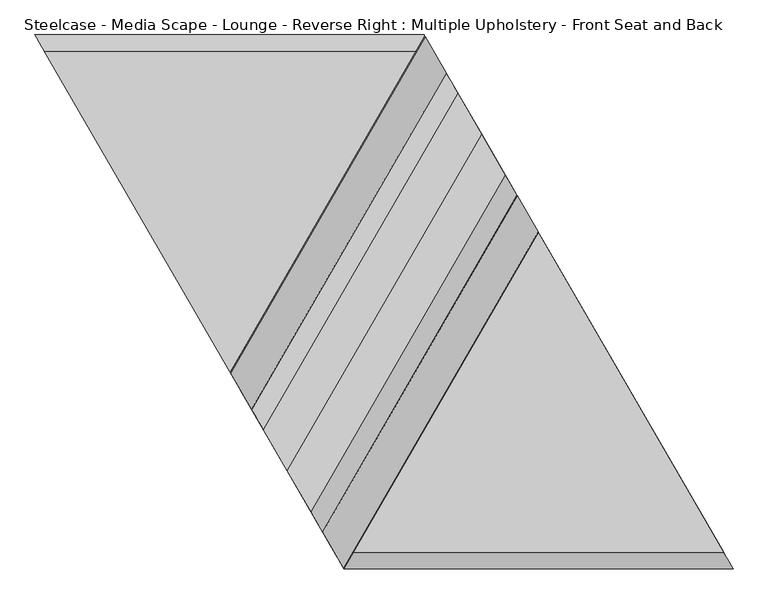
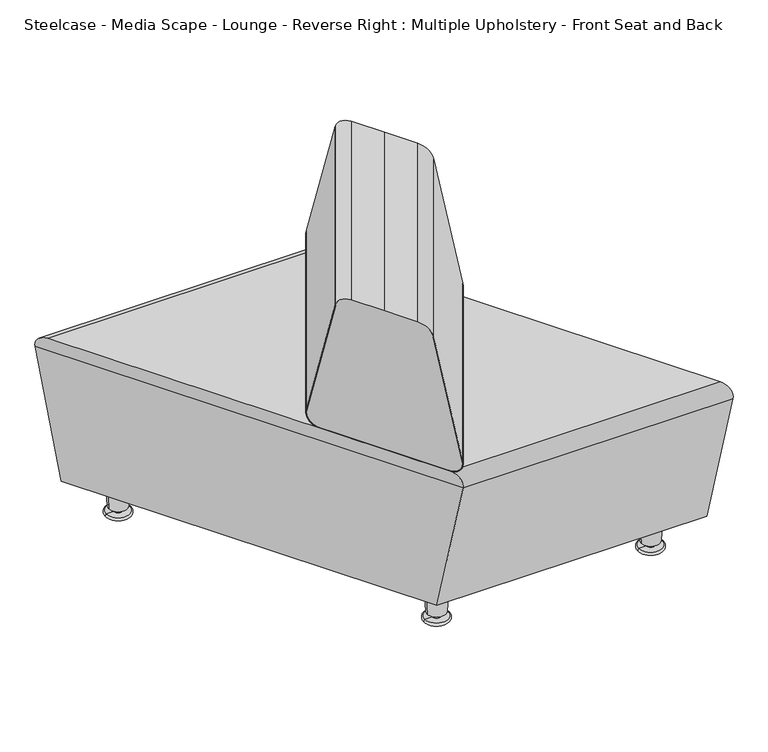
"""IFC4 building model written with IfcOpenShell, lengths in millimetres: furniture geometry, Steelcase - Media Scape - Lounge - Reverse Right : Multiple Upholstery - Front Seat and Back."""

from ifc_helpers import new_model, si_unit, point, frame, origin, place, context, project, spatial, polyline, circle_curve, ellipse_curve, trimmed, source, transform, mapped, element, save
from ifc_brep_helpers import plane_surface, cylinder_surface, revolved_surface, advanced_brep


def steelcase_media_scape_lounge_reverse_right_multiple_c0631099(model_context):
    return source(origin(), model_context, "Body", "AdvancedBrep", [
        advanced_brep(
        [(-1074.8446298, 808.4616148, 404.6983065), (-1089.3299605, 833.5030919, 375.0457281), (-607.3981608, 0.3647667, 375.0457281), (-621.8834915, 25.4062438, 404.6983065), (-482.1428002, 833.5030919, 375.0457281), (-467.6574696, 808.4616148, 404.6983065), (-14.6963313, 25.4062438, 404.6983065), (-0.2110006, 0.3647667, 375.0457281)],
        [
            (0, 1, ellipse_curve(frame((-1074.8446298, 808.4616148, 379.2983065), z_axis=(-0.8656115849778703, -0.5007160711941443, 0.0), x_axis=(-0.5007160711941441, 0.8656115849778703, 0.0)), 29.343415, 25.4)),
            (1, 2),
            (2, 3, ellipse_curve(frame((-621.8834915, 25.4062438, 379.2983065), z_axis=(-0.8656115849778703, -0.5007160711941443, 0.0), x_axis=(-0.5007160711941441, 0.8656115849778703, 0.0)), 29.343415, 25.4)),
            (3, 0),
            (4, 5, ellipse_curve(frame((-467.6574696, 808.4616148, 379.2983065), z_axis=(0.8656115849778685, 0.5007160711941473, 0.0), x_axis=(-0.5007160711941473, 0.8656115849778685, 0.0)), 29.343415, 25.4)),
            (5, 6),
            (6, 7, ellipse_curve(frame((-14.6963313, 25.4062438, 379.2983065), z_axis=(0.8656115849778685, 0.5007160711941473, 0.0), x_axis=(-0.5007160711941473, 0.8656115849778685, 0.0)), 29.343415, 25.4)),
            (7, 4),
            (0, 5),
            (4, 1),
            (7, 2),
            (6, 3),
        ],
        [
            plane_surface(frame((-281.4622448, -563.0960868, 914.4), z_axis=(-0.8656115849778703, -0.5007160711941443, 0.0), x_axis=(0.0, 0.0, -1.0))),
            plane_surface(frame((-511.7600957, 884.7039132, 914.4), z_axis=(0.8656115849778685, 0.5007160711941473, 0.0), x_axis=(0.0, 0.0, -1.0))),
            cylinder_surface(frame((0.0, 808.4616148, 379.2983065), z_axis=(-1.0, 0.0, 0.0), x_axis=(0.0, 1.0, 0.0)), 25.4),
            plane_surface(frame((-1219.2, 833.5030919, 375.0457281), z_axis=(0.0, 0.0, -1.0), x_axis=(1.0, 0.0, 0.0))),
            cylinder_surface(frame((0.0, 25.4062438, 379.2983065), z_axis=(-1.0, 0.0, 0.0), x_axis=(0.0, -1.0, 0.0)), 25.4),
            plane_surface(frame((-1219.2, 25.4062438, 404.6983065), z_axis=(0.0, 0.0, 1.0), x_axis=(1.0, 0.0, 0.0))),
        ],
        [
            (0, [[1, 2, 3, 4]]),
            (1, [[5, 6, 7, 8]]),
            (2, [[9, -5, 10, -1]]),
            (3, [[-10, -8, 11, -2]]),
            (4, [[-11, -7, 12, -3]]),
            (5, [[-9, -4, -12, -6]]),
        ],
    ),
        advanced_brep(
        [(-784.0823692, 305.807125, 437.0036802), (-480.7785795, 831.1446989, 437.0036802), (-465.4772182, 804.6925109, 404.4423976), (-768.7810079, 279.3549371, 404.4423976), (-392.5844661, 678.6793583, 404.4423976), (-695.8882558, 153.3417845, 404.4423976), (-319.5651722, 552.447447, 404.4423976), (-622.8689619, 27.1098731, 404.4423976), (-304.2638109, 525.9952591, 437.0036802), (-607.5676006, 0.6576852, 437.0036802), (-337.0631805, 582.6970826, 709.4657677), (-640.3669702, 57.3595087, 709.4657677), (-337.6629318, 583.7339011, 709.4657677), (-640.9667215, 58.3963272, 709.4657677), (-304.83862, 526.9889588, 436.796487), (-608.1424097, 1.6513849, 436.796487), (-319.5651722, 552.447447, 405.4583976), (-622.8689619, 27.1098731, 405.4583976), (-392.5844661, 678.6793583, 405.4583976), (-695.8882558, 153.3417845, 405.4583976), (-465.4772182, 804.6925109, 405.4583976), (-768.7810079, 279.3549371, 405.4583976), (-480.2037704, 830.1509992, 436.796487), (-783.5075601, 304.8134253, 436.796487), (-447.3545163, 773.362938, 709.6729609), (-750.658306, 248.0253642, 709.6729609), (-447.9542677, 774.3997566, 709.6729609), (-751.2580574, 249.0621827, 709.6729609)],
        [
            (0, 1),
            (1, 2, ellipse_curve(frame((-465.4772182, 804.6925109, 431.4882164), z_axis=(-0.8656115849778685, -0.5007160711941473, 0.0), x_axis=(0.5007160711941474, -0.8656115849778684, 0.0)), 31.2149272, 27.0458188)),
            (2, 3),
            (3, 0, ellipse_curve(frame((-768.7810079, 279.3549371, 431.4882164), z_axis=(0.8656115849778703, 0.5007160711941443, 0.0), x_axis=(0.5007160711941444, -0.8656115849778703, 0.0)), 31.2149272, 27.0458188)),
            (2, 4),
            (4, 5),
            (5, 3),
            (4, 6),
            (6, 7),
            (7, 5),
            (6, 8, ellipse_curve(frame((-319.5651722, 552.447447, 431.4882164), z_axis=(-0.8656115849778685, -0.5007160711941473, 0.0), x_axis=(0.5007160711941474, -0.8656115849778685, 0.0)), 31.2149272, 27.0458188)),
            (8, 9),
            (9, 7, ellipse_curve(frame((-622.8689619, 27.1098731, 431.4882164), z_axis=(0.8656115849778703, 0.5007160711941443, 0.0), x_axis=(0.5007160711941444, -0.8656115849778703, 0.0)), 31.2149272, 27.0458188)),
            (8, 10),
            (10, 11),
            (11, 9),
            (10, 12),
            (12, 13),
            (13, 11),
            (12, 14),
            (14, 15),
            (15, 13),
            (14, 16, ellipse_curve(frame((-319.5651722, 552.447447, 431.4882164), z_axis=(0.8656115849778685, 0.5007160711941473, 0.0), x_axis=(-0.5007160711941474, 0.8656115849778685, 0.0)), 30.042311, 26.0298188)),
            (16, 17),
            (17, 15, ellipse_curve(frame((-622.8689619, 27.1098731, 431.4882164), z_axis=(-0.8656115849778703, -0.5007160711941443, 0.0), x_axis=(-0.5007160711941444, 0.8656115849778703, 0.0)), 30.042311, 26.0298188)),
            (16, 18),
            (18, 19),
            (19, 17),
            (18, 20),
            (20, 21),
            (21, 19),
            (20, 22, ellipse_curve(frame((-465.4772182, 804.6925109, 431.4882164), z_axis=(0.8656115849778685, 0.5007160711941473, 0.0), x_axis=(-0.5007160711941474, 0.8656115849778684, 0.0)), 30.042311, 26.0298188)),
            (22, 23),
            (23, 21, ellipse_curve(frame((-768.7810079, 279.3549371, 431.4882164), z_axis=(-0.8656115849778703, -0.5007160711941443, 0.0), x_axis=(-0.5007160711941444, 0.8656115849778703, 0.0)), 30.042311, 26.0298188)),
            (22, 24),
            (24, 25),
            (25, 23),
            (24, 26),
            (26, 27),
            (27, 25),
            (0, 27),
            (26, 1),
        ],
        [
            cylinder_surface(frame((-457.0526696, 819.2842571, 431.4882164), z_axis=(-0.49999999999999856, -0.8660254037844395, 0.0), x_axis=(-0.8660254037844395, 0.49999999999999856, 0.0)), 27.0458188),
            plane_surface(frame((-849.346782, 139.8109228, 404.4423976), z_axis=(0.0, 0.0, -1.0), x_axis=(0.49999999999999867, 0.8660254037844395, 0.0))),
            plane_surface(frame((-740.1119223, 76.7441471, 404.4423976), z_axis=(0.0, 0.0, -1.0), x_axis=(0.49999999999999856, 0.8660254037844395, 0.0))),
            cylinder_surface(frame((-238.3933185, 693.0412218, 431.4882164), z_axis=(-0.4999999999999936, -0.8660254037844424, 0.0), x_axis=(0.8660254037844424, -0.4999999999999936, 0.0)), 27.0458188),
            plane_surface(frame((-607.7572765, 0.3291568, 437.0036802), z_axis=(0.8478262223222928, -0.4894926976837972, 0.20393036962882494), x_axis=(0.4999999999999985, 0.8660254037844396, 0.0))),
            plane_surface(frame((-656.9094135, 28.7071563, 709.4657677), z_axis=(0.0, 0.0, 1.0), x_axis=(0.4999999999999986, 0.8660254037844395, 0.0))),
            plane_surface(frame((-657.8081826, 29.2260609, 709.4657677), z_axis=(-0.8478262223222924, 0.4894926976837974, -0.20393036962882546), x_axis=(0.4999999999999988, 0.8660254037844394, 0.0))),
            revolved_surface(polyline([(-289.5228714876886, 552.422600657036, 431.4882164), (-607.8262939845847, 1.1049006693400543, 431.4882164)]), (-238.3933185, 693.0412218, 431.4882164), (0.4999999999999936, 0.8660254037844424, 0.0)),
            plane_surface(frame((-630.6874309, 13.5678876, 405.4583976), z_axis=(0.0, 0.0, 1.0), x_axis=(0.4999999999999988, 0.8660254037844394, 0.0))),
            plane_surface(frame((-740.1119223, 76.7441471, 405.4583976), z_axis=(0.0, 0.0, 1.0), x_axis=(0.49999999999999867, 0.8660254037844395, 0.0))),
            revolved_surface(polyline([(-480.51988613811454, 830.6974833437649, 431.4882164), (-798.8233085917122, 279.37978343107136, 431.4882164)]), (-457.0526696, 819.2842571, 431.4882164), (0.49999999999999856, 0.8660254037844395, 0.0)),
            plane_surface(frame((-871.415545, 152.5523291, 436.796487), z_axis=(0.8478262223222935, -0.48949269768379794, -0.20393036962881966), x_axis=(0.49999999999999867, 0.8660254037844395, 0.0))),
            plane_surface(frame((-822.1886527, 124.1311695, 709.6729609), z_axis=(0.0, 0.0, 1.0), x_axis=(0.4999999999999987, 0.8660254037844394, 0.0))),
            plane_surface(frame((-823.0874218, 124.6500741, 709.6729609), z_axis=(-0.8478262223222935, 0.489492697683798, 0.20393036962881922), x_axis=(0.4999999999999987, 0.8660254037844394, 0.0))),
            plane_surface(frame((-281.4622448, -563.0960868, 914.4), z_axis=(-0.8656115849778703, -0.5007160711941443, 0.0), x_axis=(0.0, 0.0, -1.0))),
            plane_surface(frame((-511.7600957, 884.7039132, 914.4), z_axis=(0.8656115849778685, 0.5007160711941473, 0.0), x_axis=(0.0, 0.0, -1.0))),
        ],
        [
            (0, [[1, 2, 3, 4]]),
            (1, [[-3, 5, 6, 7]]),
            (2, [[-6, 8, 9, 10]]),
            (3, [[-9, 11, 12, 13]]),
            (4, [[-12, 14, 15, 16]]),
            (5, [[-15, 17, 18, 19]]),
            (6, [[-18, 20, 21, 22]]),
            (7, [[-21, 23, 24, 25]]),
            (8, [[-24, 26, 27, 28]]),
            (9, [[-27, 29, 30, 31]]),
            (10, [[-30, 32, 33, 34]]),
            (11, [[-33, 35, 36, 37]]),
            (12, [[-36, 38, 39, 40]]),
            (13, [[-1, 41, -39, 42]]),
            (14, [[-4, -7, -10, -13, -16, -19, -22, -25, -28, -31, -34, -37, -40, -41]]),
            (15, [[-2, -42, -38, -35, -32, -29, -26, -23, -20, -17, -14, -11, -8, -5]]),
        ],
    ),
        advanced_brep(
        [(-733.1515703, 217.760641, 734.4994984), (-429.8477806, 743.0982149, 734.4994984), (-447.8105654, 774.1513316, 709.2242876), (-751.1143551, 248.8137578, 709.2242876), (-480.6348772, 830.896274, 436.5550069), (-783.9386669, 305.5587001, 436.5550069), (-465.4772182, 804.6925109, 404.2995226), (-768.7810079, 279.3549371, 404.2995226), (-392.5844661, 678.6793583, 404.2995226), (-695.8882558, 153.3417845, 404.2995226), (-319.5651722, 552.447447, 404.2995226), (-622.8689619, 27.1098731, 404.2995226), (-304.4075131, 526.243684, 436.5550069), (-607.7113028, 0.9061101, 436.5550069), (-337.231825, 582.9886263, 709.2242876), (-640.5356147, 57.6510524, 709.2242876), (-355.1946098, 614.041743, 734.4994984), (-658.4983994, 88.7041692, 734.4994984), (-392.1305336, 677.8946237, 734.4994984), (-695.4343233, 152.5570499, 734.4994984)],
        [
            (0, 1),
            (1, 2, ellipse_curve(frame((-429.8477806, 743.0982149, 702.7494984), z_axis=(-0.8656115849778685, -0.5007160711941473, 0.0), x_axis=(0.5007160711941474, -0.8656115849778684, 0.0)), 36.6442572, 31.75)),
            (2, 3),
            (3, 0, ellipse_curve(frame((-733.1515703, 217.760641, 702.7494984), z_axis=(0.8656115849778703, 0.5007160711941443, 0.0), x_axis=(0.5007160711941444, -0.8656115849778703, 0.0)), 36.6442572, 31.75)),
            (2, 4),
            (4, 5),
            (5, 3),
            (4, 6, ellipse_curve(frame((-465.4772182, 804.6925109, 431.0913414), z_axis=(-0.8656115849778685, -0.5007160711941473, 0.0), x_axis=(0.5007160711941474, -0.8656115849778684, 0.0)), 30.9217732, 26.7918188)),
            (6, 7),
            (7, 5, ellipse_curve(frame((-768.7810079, 279.3549371, 431.0913414), z_axis=(0.8656115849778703, 0.5007160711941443, 0.0), x_axis=(0.5007160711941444, -0.8656115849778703, 0.0)), 30.9217732, 26.7918188)),
            (6, 8),
            (8, 9),
            (9, 7),
            (8, 10),
            (10, 11),
            (11, 9),
            (10, 12, ellipse_curve(frame((-319.5651722, 552.447447, 431.0913414), z_axis=(-0.8656115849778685, -0.5007160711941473, 0.0), x_axis=(0.5007160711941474, -0.8656115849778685, 0.0)), 30.9217732, 26.7918188)),
            (12, 13),
            (13, 11, ellipse_curve(frame((-622.8689619, 27.1098731, 431.0913414), z_axis=(0.8656115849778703, 0.5007160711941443, 0.0), x_axis=(0.5007160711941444, -0.8656115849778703, 0.0)), 30.9217732, 26.7918188)),
            (12, 14),
            (14, 15),
            (15, 13),
            (14, 16, ellipse_curve(frame((-355.1946098, 614.041743, 702.7494984), z_axis=(-0.8656115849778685, -0.5007160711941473, 0.0), x_axis=(0.5007160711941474, -0.8656115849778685, 0.0)), 36.6442572, 31.75)),
            (16, 17),
            (17, 15, ellipse_curve(frame((-658.4983994, 88.7041692, 702.7494984), z_axis=(0.8656115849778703, 0.5007160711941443, 0.0), x_axis=(0.5007160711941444, -0.8656115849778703, 0.0)), 36.6442572, 31.75)),
            (16, 18),
            (18, 19),
            (19, 17),
            (0, 19),
            (18, 1),
        ],
        [
            cylinder_surface(frame((-403.3023082, 789.0763219, 702.7494984), z_axis=(-0.49999999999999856, -0.8660254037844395, 0.0), x_axis=(-0.8660254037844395, 0.49999999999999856, 0.0)), 31.75),
            plane_surface(frame((-823.2526585, 123.8665511, 709.2242876), z_axis=(-0.8478262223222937, 0.489492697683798, 0.20393036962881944), x_axis=(0.49999999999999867, 0.8660254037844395, 0.0))),
            cylinder_surface(frame((-456.6954989, 819.902895, 431.0913414), z_axis=(-0.49999999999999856, -0.8660254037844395, 0.0), x_axis=(-0.8660254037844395, 0.49999999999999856, 0.0)), 26.7918188),
            plane_surface(frame((-849.7273666, 139.151731, 404.2995226), z_axis=(0.0, 0.0, -1.0), x_axis=(0.4999999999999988, 0.8660254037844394, 0.0))),
            plane_surface(frame((-740.4925069, 76.0849553, 404.2995226), z_axis=(0.0, 0.0, -1.0), x_axis=(0.49999999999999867, 0.8660254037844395, 0.0))),
            cylinder_surface(frame((-238.0361477, 693.6598597, 431.0913414), z_axis=(-0.4999999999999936, -0.8660254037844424, 0.0), x_axis=(0.8660254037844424, -0.4999999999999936, 0.0)), 26.7918188),
            plane_surface(frame((-608.353209, -0.2057039, 436.5550069), z_axis=(0.8478262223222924, -0.4894926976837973, 0.20393036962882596), x_axis=(0.49999999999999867, 0.8660254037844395, 0.0))),
            cylinder_surface(frame((-291.4293384, 724.4864327, 702.7494984), z_axis=(-0.4999999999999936, -0.8660254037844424, 0.0), x_axis=(0.8660254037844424, -0.4999999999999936, 0.0)), 31.75),
            plane_surface(frame((-684.4612062, 43.7352688, 734.4994984), z_axis=(0.0, 0.0, 1.0), x_axis=(0.4999999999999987, 0.8660254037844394, 0.0))),
            plane_surface(frame((-739.8122575, 75.6922131, 734.4994984), z_axis=(0.0, 0.0, 1.0), x_axis=(0.4999999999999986, 0.8660254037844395, 0.0))),
            plane_surface(frame((-281.4622448, -563.0960868, 914.4), z_axis=(-0.8656115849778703, -0.5007160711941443, 0.0), x_axis=(0.0, 0.0, -1.0))),
            plane_surface(frame((-511.7600957, 884.7039132, 914.4), z_axis=(0.8656115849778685, 0.5007160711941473, 0.0), x_axis=(0.0, 0.0, -1.0))),
        ],
        [
            (0, [[1, 2, 3, 4]]),
            (1, [[-3, 5, 6, 7]]),
            (2, [[-6, 8, 9, 10]]),
            (3, [[-9, 11, 12, 13]]),
            (4, [[-12, 14, 15, 16]]),
            (5, [[-15, 17, 18, 19]]),
            (6, [[-18, 20, 21, 22]]),
            (7, [[-21, 23, 24, 25]]),
            (8, [[-24, 26, 27, 28]]),
            (9, [[-1, 29, -27, 30]]),
            (10, [[-4, -7, -10, -13, -16, -19, -22, -25, -28, -29]]),
            (11, [[-2, -30, -26, -23, -20, -17, -14, -11, -8, -5]]),
        ],
    ),
        advanced_brep(
        [(-1059.8466558, 782.5339068, 74.676), (-452.6594956, 782.5339068, 74.676), (-29.7158278, 51.3711588, 74.676), (-636.9029881, 51.3711588, 74.676), (-0.234325, 0.4050887, 374.7917281), (-607.4214852, 0.4050887, 374.7917281), (-14.7196556, 25.4465658, 404.4443065), (-621.9068159, 25.4465658, 404.4443065), (-467.6556677, 808.4584998, 404.4443065), (-1074.842828, 808.4584998, 404.4443065), (-482.1409984, 833.4999769, 374.7917281), (-1089.3281586, 833.4999769, 374.7917281)],
        [
            (0, 1),
            (1, 2),
            (2, 3),
            (3, 0),
            (2, 4),
            (4, 5),
            (5, 3),
            (4, 6, ellipse_curve(frame((-14.7196556, 25.4465658, 379.0443065), z_axis=(-0.8656115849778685, -0.5007160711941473, 0.0), x_axis=(-0.5007160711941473, 0.8656115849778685, 0.0)), 29.343415, 25.4)),
            (6, 7),
            (7, 5, ellipse_curve(frame((-621.9068159, 25.4465658, 379.0443065), z_axis=(0.8656115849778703, 0.5007160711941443, 0.0), x_axis=(-0.5007160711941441, 0.8656115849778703, 0.0)), 29.343415, 25.4)),
            (6, 8),
            (8, 9),
            (9, 7),
            (8, 10, ellipse_curve(frame((-467.6556677, 808.4584998, 379.0443065), z_axis=(-0.8656115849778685, -0.5007160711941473, 0.0), x_axis=(-0.5007160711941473, 0.8656115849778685, 0.0)), 29.343415, 25.4)),
            (10, 11),
            (11, 9, ellipse_curve(frame((-1074.842828, 808.4584998, 379.0443065), z_axis=(0.8656115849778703, 0.5007160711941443, 0.0), x_axis=(-0.5007160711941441, 0.8656115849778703, 0.0)), 29.343415, 25.4)),
            (0, 11),
            (10, 1),
        ],
        [
            plane_surface(frame((-1094.6230669, 782.5339068, 74.676), z_axis=(0.0, 0.0, -1.0), x_axis=(1.0, 0.0, 0.0))),
            plane_surface(frame((-1094.6230669, 51.3711588, 74.676), z_axis=(0.0, -0.9858849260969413, -0.16742434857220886), x_axis=(1.0, 0.0, 0.0))),
            cylinder_surface(frame((0.0, 25.4465658, 379.0443065), z_axis=(-1.0, 0.0, 0.0), x_axis=(0.0, -1.0, 0.0)), 25.4),
            plane_surface(frame((-1094.6230669, 25.4465658, 404.4443065), z_axis=(0.0, 0.0, 1.0), x_axis=(1.0, 0.0, 0.0))),
            cylinder_surface(frame((0.0, 808.4584998, 379.0443065), z_axis=(-1.0, 0.0, 0.0), x_axis=(0.0, 1.0, 0.0)), 25.4),
            plane_surface(frame((-1094.6230669, 833.4999769, 374.7917281), z_axis=(0.0, 0.9858849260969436, -0.16742434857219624), x_axis=(1.0, 0.0, 0.0))),
            plane_surface(frame((-281.4622448, -563.0960868, 914.4), z_axis=(-0.8656115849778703, -0.5007160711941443, 0.0), x_axis=(0.0, 0.0, -1.0))),
            plane_surface(frame((-511.7600957, 884.7039132, 914.4), z_axis=(0.8656115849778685, 0.5007160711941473, 0.0), x_axis=(0.0, 0.0, -1.0))),
        ],
        [
            (0, [[1, 2, 3, 4]]),
            (1, [[-3, 5, 6, 7]]),
            (2, [[-6, 8, 9, 10]]),
            (3, [[-9, 11, 12, 13]]),
            (4, [[-12, 14, 15, 16]]),
            (5, [[-1, 17, -15, 18]]),
            (6, [[-4, -7, -10, -13, -16, -17]]),
            (7, [[-2, -18, -14, -11, -8, -5]]),
        ],
    ),
        advanced_brep(
        [(-943.0462782, 727.1583042, 17.057519), (-984.9565107, 727.1583042, 17.057519), (-987.7883146, 727.1583042, 74.1561731), (-940.2144743, 727.1583042, 74.1561731), (-954.4763944, 727.1583042, 17.057519), (-973.5263944, 727.1583042, 17.057519), (-954.4763944, 727.1583042, 6.3788302), (-973.5263944, 727.1583042, 6.3788302), (-937.9477522, 727.1583042, 6.3788302), (-990.0550367, 727.1583042, 6.3788302), (-937.9477522, 727.1583042, 0.0), (-990.0550367, 727.1583042, 0.0), (-964.0013944, 727.1583042, 0.0), (-964.0013944, 727.1583042, 74.1561731)],
        [
            (0, 1, circle_curve(frame((-964.0013944, 727.1583042, 17.057519), z_axis=(0.0, 0.0, 1.0), x_axis=(-1.0, 0.0, 0.0)), 20.9551163)),
            (1, 2),
            (2, 3, circle_curve(frame((-964.0013944, 727.1583042, 74.1561731), z_axis=(0.0, 0.0, -1.0), x_axis=(-1.0, 0.0, 0.0)), 23.7869202)),
            (3, 0),
            (1, 0, circle_curve(frame((-964.0013944, 727.1583042, 17.057519), z_axis=(0.0, 0.0, 1.0), x_axis=(-1.0, 0.0, 0.0)), 20.9551163)),
            (3, 2, circle_curve(frame((-964.0013944, 727.1583042, 74.1561731), z_axis=(0.0, 0.0, -1.0), x_axis=(-1.0, 0.0, 0.0)), 23.7869202)),
            (0, 4),
            (4, 5, circle_curve(frame((-964.0013944, 727.1583042, 17.057519), z_axis=(0.0, 0.0, 1.0), x_axis=(-1.0, 0.0, 0.0)), 9.525)),
            (5, 1),
            (5, 4, circle_curve(frame((-964.0013944, 727.1583042, 17.057519), z_axis=(0.0, 0.0, 1.0), x_axis=(-1.0, 0.0, 0.0)), 9.525)),
            (4, 6),
            (6, 7, circle_curve(frame((-964.0013944, 727.1583042, 6.3788302), z_axis=(0.0, 0.0, 1.0), x_axis=(-1.0, 0.0, 0.0)), 9.525)),
            (7, 5),
            (7, 6, circle_curve(frame((-964.0013944, 727.1583042, 6.3788302), z_axis=(0.0, 0.0, 1.0), x_axis=(-1.0, 0.0, 0.0)), 9.525)),
            (6, 8),
            (8, 9, circle_curve(frame((-964.0013944, 727.1583042, 6.3788302), z_axis=(0.0, 0.0, 1.0), x_axis=(-1.0, 0.0, 0.0)), 26.0536423)),
            (9, 7),
            (9, 8, circle_curve(frame((-964.0013944, 727.1583042, 6.3788302), z_axis=(0.0, 0.0, 1.0), x_axis=(-1.0, 0.0, 0.0)), 26.0536423)),
            (8, 10, circle_curve(frame((-937.9477522, 727.1583042, 3.1894151), z_axis=(0.0, 1.0, 0.0), x_axis=(1.0, 0.0, 0.0)), 3.1894151)),
            (10, 11, circle_curve(frame((-964.0013944, 727.1583042, 0.0), z_axis=(0.0, 0.0, 1.0), x_axis=(-1.0, 0.0, 0.0)), 26.0536423)),
            (11, 9, circle_curve(frame((-990.0550367, 727.1583042, 3.1894151), z_axis=(0.0, 1.0, 0.0), x_axis=(-1.0, 0.0, 0.0)), 3.1894151)),
            (11, 10, circle_curve(frame((-964.0013944, 727.1583042, 0.0), z_axis=(0.0, 0.0, 1.0), x_axis=(-1.0, 0.0, 0.0)), 26.0536423)),
            (10, 12),
            (12, 11),
            (2, 13),
            (13, 3),
        ],
        [
            revolved_surface(polyline([(-987.7883146, 727.1583042, 74.1561731), (-984.9565107, 727.1583042, 17.057519)]), (-964.0013944, 727.1583042, 61.4561731), (0.0, 0.0, -1.0)),
            plane_surface(frame((-964.0013944, 727.1583042, 17.057519), z_axis=(0.0, 0.0, -1.0), x_axis=(-1.0, 0.0, 0.0))),
            cylinder_surface(frame((-964.0013944, 727.1583042, 61.4561731), z_axis=(0.0, 0.0, -1.0), x_axis=(-1.0, 0.0, 0.0)), 9.525),
            plane_surface(frame((-964.0013944, 727.1583042, 6.3788302), z_axis=(0.0, 0.0, 1.0), x_axis=(-1.0, 0.0, 0.0))),
            revolved_surface(trimmed(ellipse_curve(frame((-990.0550367, 727.1583042, 3.1894151), z_axis=(0.0, -1.0, 0.0), x_axis=(-1.0, 0.0, 0.0)), 3.1894151, 3.1894151), [point((-990.0550367, 727.1583042, 6.3788302))], [point((-990.0550367, 727.1583042, 0.0))], True, "CARTESIAN"), (-964.0013944, 727.1583042, 61.4561731), (0.0, 0.0, -1.0)),
            plane_surface(frame((-964.0013944, 727.1583042, 0.0), z_axis=(0.0, 0.0, -1.0), x_axis=(-1.0, 0.0, 0.0))),
            plane_surface(frame((-964.0013944, 727.1583042, 74.1561731), z_axis=(0.0, 0.0, 1.0), x_axis=(-1.0, 0.0, 0.0))),
        ],
        [
            (0, [[1, 2, 3, 4]]),
            (0, [[-2, 5, -4, 6]]),
            (1, [[-1, 7, 8, 9]]),
            (1, [[-5, -9, 10, -7]]),
            (2, [[-8, 11, 12, 13]]),
            (2, [[-10, -13, 14, -11]]),
            (3, [[-12, 15, 16, 17]]),
            (3, [[-14, -17, 18, -15]]),
            (4, [[-16, 19, 20, 21]]),
            (4, [[-18, -21, 22, -19]]),
            (5, [[-20, 23, 24]]),
            (5, [[-22, -24, -23]]),
            (6, [[-3, 25, 26]]),
            (6, [[-6, -26, -25]]),
        ],
    ),
        advanced_brep(
        [(-461.2460355, 727.1583042, 17.057519), (-503.1562681, 727.1583042, 17.057519), (-505.988072, 727.1583042, 74.1561731), (-458.4142317, 727.1583042, 74.1561731), (-472.6761518, 727.1583042, 17.057519), (-491.7261518, 727.1583042, 17.057519), (-472.6761518, 727.1583042, 6.3788302), (-491.7261518, 727.1583042, 6.3788302), (-456.1475095, 727.1583042, 6.3788302), (-508.2547941, 727.1583042, 6.3788302), (-456.1475095, 727.1583042, 0.0), (-508.2547941, 727.1583042, 0.0), (-482.2011518, 727.1583042, 0.0), (-482.2011518, 727.1583042, 74.1561731)],
        [
            (0, 1, circle_curve(frame((-482.2011518, 727.1583042, 17.057519), z_axis=(0.0, 0.0, 1.0), x_axis=(-1.0, 0.0, 0.0)), 20.9551163)),
            (1, 2),
            (2, 3, circle_curve(frame((-482.2011518, 727.1583042, 74.1561731), z_axis=(0.0, 0.0, -1.0), x_axis=(-1.0, 0.0, 0.0)), 23.7869202)),
            (3, 0),
            (1, 0, circle_curve(frame((-482.2011518, 727.1583042, 17.057519), z_axis=(0.0, 0.0, 1.0), x_axis=(-1.0, 0.0, 0.0)), 20.9551163)),
            (3, 2, circle_curve(frame((-482.2011518, 727.1583042, 74.1561731), z_axis=(0.0, 0.0, -1.0), x_axis=(-1.0, 0.0, 0.0)), 23.7869202)),
            (0, 4),
            (4, 5, circle_curve(frame((-482.2011518, 727.1583042, 17.057519), z_axis=(0.0, 0.0, 1.0), x_axis=(-1.0, 0.0, 0.0)), 9.525)),
            (5, 1),
            (5, 4, circle_curve(frame((-482.2011518, 727.1583042, 17.057519), z_axis=(0.0, 0.0, 1.0), x_axis=(-1.0, 0.0, 0.0)), 9.525)),
            (4, 6),
            (6, 7, circle_curve(frame((-482.2011518, 727.1583042, 6.3788302), z_axis=(0.0, 0.0, 1.0), x_axis=(-1.0, 0.0, 0.0)), 9.525)),
            (7, 5),
            (7, 6, circle_curve(frame((-482.2011518, 727.1583042, 6.3788302), z_axis=(0.0, 0.0, 1.0), x_axis=(-1.0, 0.0, 0.0)), 9.525)),
            (6, 8),
            (8, 9, circle_curve(frame((-482.2011518, 727.1583042, 6.3788302), z_axis=(0.0, 0.0, 1.0), x_axis=(-1.0, 0.0, 0.0)), 26.0536423)),
            (9, 7),
            (9, 8, circle_curve(frame((-482.2011518, 727.1583042, 6.3788302), z_axis=(0.0, 0.0, 1.0), x_axis=(-1.0, 0.0, 0.0)), 26.0536423)),
            (8, 10, circle_curve(frame((-456.1475095, 727.1583042, 3.1894151), z_axis=(0.0, 1.0, 0.0), x_axis=(1.0, 0.0, 0.0)), 3.1894151)),
            (10, 11, circle_curve(frame((-482.2011518, 727.1583042, 0.0), z_axis=(0.0, 0.0, 1.0), x_axis=(-1.0, 0.0, 0.0)), 26.0536423)),
            (11, 9, circle_curve(frame((-508.2547941, 727.1583042, 3.1894151), z_axis=(0.0, 1.0, 0.0), x_axis=(-1.0, 0.0, 0.0)), 3.1894151)),
            (11, 10, circle_curve(frame((-482.2011518, 727.1583042, 0.0), z_axis=(0.0, 0.0, 1.0), x_axis=(-1.0, 0.0, 0.0)), 26.0536423)),
            (10, 12),
            (12, 11),
            (2, 13),
            (13, 3),
        ],
        [
            revolved_surface(polyline([(-505.988072, 727.1583042, 74.1561731), (-503.1562681, 727.1583042, 17.057519)]), (-482.2011518, 727.1583042, 61.4561731), (0.0, 0.0, -1.0)),
            plane_surface(frame((-482.2011518, 727.1583042, 17.057519), z_axis=(0.0, 0.0, -1.0), x_axis=(-1.0, 0.0, 0.0))),
            cylinder_surface(frame((-482.2011518, 727.1583042, 61.4561731), z_axis=(0.0, 0.0, -1.0), x_axis=(-1.0, 0.0, 0.0)), 9.525),
            plane_surface(frame((-482.2011518, 727.1583042, 6.3788302), z_axis=(0.0, 0.0, 1.0), x_axis=(-1.0, 0.0, 0.0))),
            revolved_surface(trimmed(ellipse_curve(frame((-508.2547941, 727.1583042, 3.1894151), z_axis=(0.0, -1.0, 0.0), x_axis=(-1.0, 0.0, 0.0)), 3.1894151, 3.1894151), [point((-508.2547941, 727.1583042, 6.3788302))], [point((-508.2547941, 727.1583042, 0.0))], True, "CARTESIAN"), (-482.2011518, 727.1583042, 61.4561731), (0.0, 0.0, -1.0)),
            plane_surface(frame((-482.2011518, 727.1583042, 0.0), z_axis=(0.0, 0.0, -1.0), x_axis=(-1.0, 0.0, 0.0))),
            plane_surface(frame((-482.2011518, 727.1583042, 74.1561731), z_axis=(0.0, 0.0, 1.0), x_axis=(-1.0, 0.0, 0.0))),
        ],
        [
            (0, [[1, 2, 3, 4]]),
            (0, [[-2, 5, -4, 6]]),
            (1, [[-1, 7, 8, 9]]),
            (1, [[-5, -9, 10, -7]]),
            (2, [[-8, 11, 12, 13]]),
            (2, [[-10, -13, 14, -11]]),
            (3, [[-12, 15, 16, 17]]),
            (3, [[-14, -17, 18, -15]]),
            (4, [[-16, 19, 20, 21]]),
            (4, [[-18, -21, 22, -19]]),
            (5, [[-20, 23, 24]]),
            (5, [[-22, -24, -23]]),
            (6, [[-3, 25, 26]]),
            (6, [[-6, -26, -25]]),
        ],
    ),
        advanced_brep(
        [(-584.810005, 106.9669449, 17.057519), (-626.7202375, 106.9669449, 17.057519), (-629.5520414, 106.9669449, 74.1561731), (-581.9782011, 106.9669449, 74.1561731), (-596.2401212, 106.9669449, 17.057519), (-615.2901212, 106.9669449, 17.057519), (-596.2401212, 106.9669449, 6.3788302), (-615.2901212, 106.9669449, 6.3788302), (-579.711479, 106.9669449, 6.3788302), (-631.8187635, 106.9669449, 6.3788302), (-579.711479, 106.9669449, 0.0), (-631.8187635, 106.9669449, 0.0), (-605.7651212, 106.9669449, 0.0), (-605.7651212, 106.9669449, 74.1561731)],
        [
            (0, 1, circle_curve(frame((-605.7651212, 106.9669449, 17.057519), z_axis=(0.0, 0.0, 1.0), x_axis=(-1.0, 0.0, 0.0)), 20.9551163)),
            (1, 2),
            (2, 3, circle_curve(frame((-605.7651212, 106.9669449, 74.1561731), z_axis=(0.0, 0.0, -1.0), x_axis=(-1.0, 0.0, 0.0)), 23.7869202)),
            (3, 0),
            (1, 0, circle_curve(frame((-605.7651212, 106.9669449, 17.057519), z_axis=(0.0, 0.0, 1.0), x_axis=(-1.0, 0.0, 0.0)), 20.9551163)),
            (3, 2, circle_curve(frame((-605.7651212, 106.9669449, 74.1561731), z_axis=(0.0, 0.0, -1.0), x_axis=(-1.0, 0.0, 0.0)), 23.7869202)),
            (0, 4),
            (4, 5, circle_curve(frame((-605.7651212, 106.9669449, 17.057519), z_axis=(0.0, 0.0, 1.0), x_axis=(-1.0, 0.0, 0.0)), 9.525)),
            (5, 1),
            (5, 4, circle_curve(frame((-605.7651212, 106.9669449, 17.057519), z_axis=(0.0, 0.0, 1.0), x_axis=(-1.0, 0.0, 0.0)), 9.525)),
            (4, 6),
            (6, 7, circle_curve(frame((-605.7651212, 106.9669449, 6.3788302), z_axis=(0.0, 0.0, 1.0), x_axis=(-1.0, 0.0, 0.0)), 9.525)),
            (7, 5),
            (7, 6, circle_curve(frame((-605.7651212, 106.9669449, 6.3788302), z_axis=(0.0, 0.0, 1.0), x_axis=(-1.0, 0.0, 0.0)), 9.525)),
            (6, 8),
            (8, 9, circle_curve(frame((-605.7651212, 106.9669449, 6.3788302), z_axis=(0.0, 0.0, 1.0), x_axis=(-1.0, 0.0, 0.0)), 26.0536423)),
            (9, 7),
            (9, 8, circle_curve(frame((-605.7651212, 106.9669449, 6.3788302), z_axis=(0.0, 0.0, 1.0), x_axis=(-1.0, 0.0, 0.0)), 26.0536423)),
            (8, 10, circle_curve(frame((-579.711479, 106.9669449, 3.1894151), z_axis=(0.0, 1.0, 0.0), x_axis=(1.0, 0.0, 0.0)), 3.1894151)),
            (10, 11, circle_curve(frame((-605.7651212, 106.9669449, 0.0), z_axis=(0.0, 0.0, 1.0), x_axis=(-1.0, 0.0, 0.0)), 26.0536423)),
            (11, 9, circle_curve(frame((-631.8187635, 106.9669449, 3.1894151), z_axis=(0.0, 1.0, 0.0), x_axis=(-1.0, 0.0, 0.0)), 3.1894151)),
            (11, 10, circle_curve(frame((-605.7651212, 106.9669449, 0.0), z_axis=(0.0, 0.0, 1.0), x_axis=(-1.0, 0.0, 0.0)), 26.0536423)),
            (10, 12),
            (12, 11),
            (2, 13),
            (13, 3),
        ],
        [
            revolved_surface(polyline([(-629.5520414, 106.9669449, 74.1561731), (-626.7202375, 106.9669449, 17.057519)]), (-605.7651212, 106.9669449, 61.4561731), (0.0, 0.0, -1.0)),
            plane_surface(frame((-605.7651212, 106.9669449, 17.057519), z_axis=(0.0, 0.0, -1.0), x_axis=(-1.0, 0.0, 0.0))),
            cylinder_surface(frame((-605.7651212, 106.9669449, 61.4561731), z_axis=(0.0, 0.0, -1.0), x_axis=(-1.0, 0.0, 0.0)), 9.525),
            plane_surface(frame((-605.7651212, 106.9669449, 6.3788302), z_axis=(0.0, 0.0, 1.0), x_axis=(-1.0, 0.0, 0.0))),
            revolved_surface(trimmed(ellipse_curve(frame((-631.8187635, 106.9669449, 3.1894151), z_axis=(0.0, -1.0, 0.0), x_axis=(-1.0, 0.0, 0.0)), 3.1894151, 3.1894151), [point((-631.8187635, 106.9669449, 6.3788302))], [point((-631.8187635, 106.9669449, 0.0))], True, "CARTESIAN"), (-605.7651212, 106.9669449, 61.4561731), (0.0, 0.0, -1.0)),
            plane_surface(frame((-605.7651212, 106.9669449, 0.0), z_axis=(0.0, 0.0, -1.0), x_axis=(-1.0, 0.0, 0.0))),
            plane_surface(frame((-605.7651212, 106.9669449, 74.1561731), z_axis=(0.0, 0.0, 1.0), x_axis=(-1.0, 0.0, 0.0))),
        ],
        [
            (0, [[1, 2, 3, 4]]),
            (0, [[-2, 5, -4, 6]]),
            (1, [[-1, 7, 8, 9]]),
            (1, [[-5, -9, 10, -7]]),
            (2, [[-8, 11, 12, 13]]),
            (2, [[-10, -13, 14, -11]]),
            (3, [[-12, 15, 16, 17]]),
            (3, [[-14, -17, 18, -15]]),
            (4, [[-16, 19, 20, 21]]),
            (4, [[-18, -21, 22, -19]]),
            (5, [[-20, 23, 24]]),
            (5, [[-22, -24, -23]]),
            (6, [[-3, 25, 26]]),
            (6, [[-6, -26, -25]]),
        ],
    ),
        advanced_brep(
        [(-103.0097624, 106.9669449, 17.057519), (-144.9199949, 106.9669449, 17.057519), (-147.7517988, 106.9669449, 74.1561731), (-100.1779585, 106.9669449, 74.1561731), (-114.4398786, 106.9669449, 17.057519), (-133.4898786, 106.9669449, 17.057519), (-114.4398786, 106.9669449, 6.3788302), (-133.4898786, 106.9669449, 6.3788302), (-97.9112364, 106.9669449, 6.3788302), (-150.0185209, 106.9669449, 6.3788302), (-97.9112364, 106.9669449, 0.0), (-150.0185209, 106.9669449, 0.0), (-123.9648786, 106.9669449, 0.0), (-123.9648786, 106.9669449, 74.1561731)],
        [
            (0, 1, circle_curve(frame((-123.9648786, 106.9669449, 17.057519), z_axis=(0.0, 0.0, 1.0), x_axis=(-1.0, 0.0, 0.0)), 20.9551163)),
            (1, 2),
            (2, 3, circle_curve(frame((-123.9648786, 106.9669449, 74.1561731), z_axis=(0.0, 0.0, -1.0), x_axis=(-1.0, 0.0, 0.0)), 23.7869202)),
            (3, 0),
            (1, 0, circle_curve(frame((-123.9648786, 106.9669449, 17.057519), z_axis=(0.0, 0.0, 1.0), x_axis=(-1.0, 0.0, 0.0)), 20.9551163)),
            (3, 2, circle_curve(frame((-123.9648786, 106.9669449, 74.1561731), z_axis=(0.0, 0.0, -1.0), x_axis=(-1.0, 0.0, 0.0)), 23.7869202)),
            (0, 4),
            (4, 5, circle_curve(frame((-123.9648786, 106.9669449, 17.057519), z_axis=(0.0, 0.0, 1.0), x_axis=(-1.0, 0.0, 0.0)), 9.525)),
            (5, 1),
            (5, 4, circle_curve(frame((-123.9648786, 106.9669449, 17.057519), z_axis=(0.0, 0.0, 1.0), x_axis=(-1.0, 0.0, 0.0)), 9.525)),
            (4, 6),
            (6, 7, circle_curve(frame((-123.9648786, 106.9669449, 6.3788302), z_axis=(0.0, 0.0, 1.0), x_axis=(-1.0, 0.0, 0.0)), 9.525)),
            (7, 5),
            (7, 6, circle_curve(frame((-123.9648786, 106.9669449, 6.3788302), z_axis=(0.0, 0.0, 1.0), x_axis=(-1.0, 0.0, 0.0)), 9.525)),
            (6, 8),
            (8, 9, circle_curve(frame((-123.9648786, 106.9669449, 6.3788302), z_axis=(0.0, 0.0, 1.0), x_axis=(-1.0, 0.0, 0.0)), 26.0536423)),
            (9, 7),
            (9, 8, circle_curve(frame((-123.9648786, 106.9669449, 6.3788302), z_axis=(0.0, 0.0, 1.0), x_axis=(-1.0, 0.0, 0.0)), 26.0536423)),
            (8, 10, circle_curve(frame((-97.9112364, 106.9669449, 3.1894151), z_axis=(0.0, 1.0, 0.0), x_axis=(1.0, 0.0, 0.0)), 3.1894151)),
            (10, 11, circle_curve(frame((-123.9648786, 106.9669449, 0.0), z_axis=(0.0, 0.0, 1.0), x_axis=(-1.0, 0.0, 0.0)), 26.0536423)),
            (11, 9, circle_curve(frame((-150.0185209, 106.9669449, 3.1894151), z_axis=(0.0, 1.0, 0.0), x_axis=(-1.0, 0.0, 0.0)), 3.1894151)),
            (11, 10, circle_curve(frame((-123.9648786, 106.9669449, 0.0), z_axis=(0.0, 0.0, 1.0), x_axis=(-1.0, 0.0, 0.0)), 26.0536423)),
            (10, 12),
            (12, 11),
            (2, 13),
            (13, 3),
        ],
        [
            revolved_surface(polyline([(-147.7517988, 106.9669449, 74.1561731), (-144.9199949, 106.9669449, 17.057519)]), (-123.9648786, 106.9669449, 61.4561731), (0.0, 0.0, -1.0)),
            plane_surface(frame((-123.9648786, 106.9669449, 17.057519), z_axis=(0.0, 0.0, -1.0), x_axis=(-1.0, 0.0, 0.0))),
            cylinder_surface(frame((-123.9648786, 106.9669449, 61.4561731), z_axis=(0.0, 0.0, -1.0), x_axis=(-1.0, 0.0, 0.0)), 9.525),
            plane_surface(frame((-123.9648786, 106.9669449, 6.3788302), z_axis=(0.0, 0.0, 1.0), x_axis=(-1.0, 0.0, 0.0))),
            revolved_surface(trimmed(ellipse_curve(frame((-150.0185209, 106.9669449, 3.1894151), z_axis=(0.0, -1.0, 0.0), x_axis=(-1.0, 0.0, 0.0)), 3.1894151, 3.1894151), [point((-150.0185209, 106.9669449, 6.3788302))], [point((-150.0185209, 106.9669449, 0.0))], True, "CARTESIAN"), (-123.9648786, 106.9669449, 61.4561731), (0.0, 0.0, -1.0)),
            plane_surface(frame((-123.9648786, 106.9669449, 0.0), z_axis=(0.0, 0.0, -1.0), x_axis=(-1.0, 0.0, 0.0))),
            plane_surface(frame((-123.9648786, 106.9669449, 74.1561731), z_axis=(0.0, 0.0, 1.0), x_axis=(-1.0, 0.0, 0.0))),
        ],
        [
            (0, [[1, 2, 3, 4]]),
            (0, [[-2, 5, -4, 6]]),
            (1, [[-1, 7, 8, 9]]),
            (1, [[-5, -9, 10, -7]]),
            (2, [[-8, 11, 12, 13]]),
            (2, [[-10, -13, 14, -11]]),
            (3, [[-12, 15, 16, 17]]),
            (3, [[-14, -17, 18, -15]]),
            (4, [[-16, 19, 20, 21]]),
            (4, [[-18, -21, 22, -19]]),
            (5, [[-20, 23, 24]]),
            (5, [[-22, -24, -23]]),
            (6, [[-3, 25, 26]]),
            (6, [[-6, -26, -25]]),
        ],
    ),
    ])


if __name__ == "__main__":
    model = new_model("IFC4")
    model_context = context("Model", 3, world=origin())
    ifc_project = project(units=[si_unit("LENGTHUNIT", "METRE", prefix="MILLI")], contexts=[model_context])
    site = spatial("IfcSite", under=ifc_project)
    building = spatial("IfcBuilding", under=site)
    placement = place(None, origin())
    steelcase_media_scape_lounge_reverse_right_multiple_shape = steelcase_media_scape_lounge_reverse_right_multiple_c0631099(model_context)
    element("IfcFurniture", 1, ObjectType="Steelcase - Media Scape - Lounge - Reverse Right : Multiple Upholstery - Front Seat and Back", at=placement, inside=building, context=model_context, shape_type="MappedRepresentation", body=[
        mapped(steelcase_media_scape_lounge_reverse_right_multiple_shape, transform((0.0, 0.0, 0.0), x_axis=(1.0, 0.0, 0.0), y_axis=(0.0, 1.0, 0.0), z_axis=(0.0, 0.0, 1.0))),
    ])
    save(model, "model.ifc")
